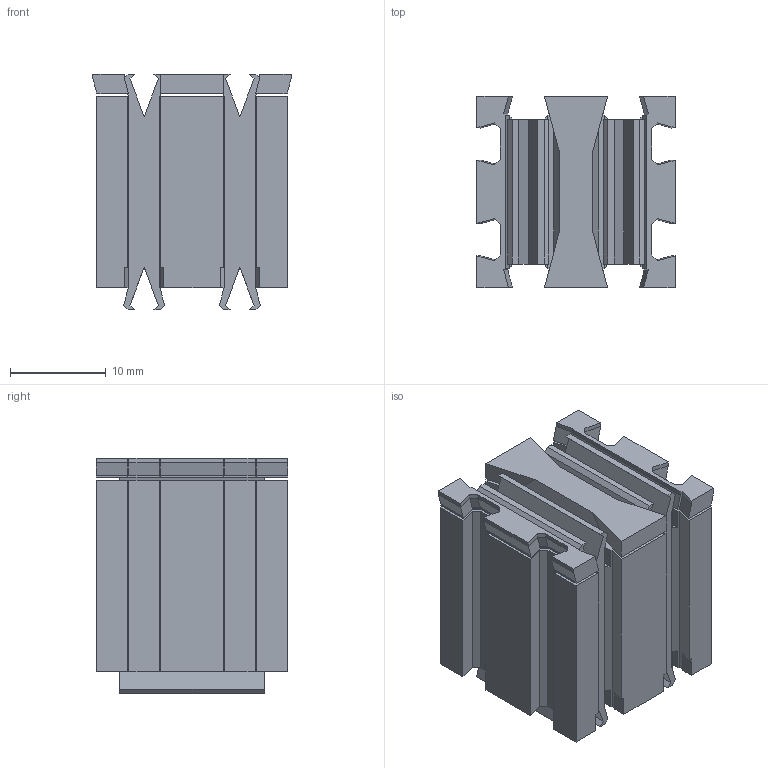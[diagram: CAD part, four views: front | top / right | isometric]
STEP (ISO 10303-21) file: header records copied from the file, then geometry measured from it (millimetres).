
FILE_DESCRIPTION(/* description */ (''),/* implementation_level */ '2;1');
FILE_NAME(/* name */ 'C:/Users/priba/Documents/Temp/Backup/Brick 2x2x2 v7.step',/* time_stamp */ '2019-07-02T17:29:31+02:00',/* author */ (''),/* organization */ (''),/* preprocessor_version */ 'ST-DEVELOPER v18',/* originating_system */ 'Autodesk Translation Framework v8.2.0.1029',/* authorisation */ '');
FILE_SCHEMA (('AUTOMOTIVE_DESIGN { 1 0 10303 214 3 1 1 }'));
Length unit declared in the file: millimetre
Products named in the file (2): Brick 2x2x2; Brick 2x2x2 itself
Assembly tree (1 placements, depth 2):
  Brick 2x2x2
    Brick 2x2x2 itself
Bounding box: 20.72 x 20 x 24.61 mm (x, y, z)
Volume: 2653.1 mm3; surface area: 7740.4 mm2
Topology: 4 solids, 4 shells, 414 faces, 1157 edges, 746 vertices
Faces by surface type: plane 414
Entity records: 12987 total; most frequent: CARTESIAN_POINT 2320, ORIENTED_EDGE 2314, DIRECTION 1991, LINE 1157, VECTOR 1157, EDGE_CURVE 1157, VERTEX_POINT 746, EDGE_LOOP 421
